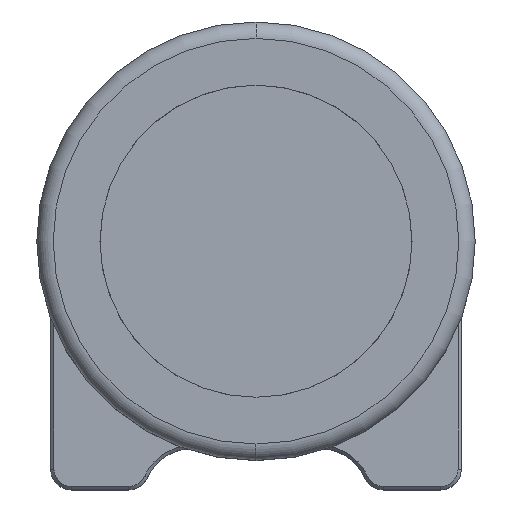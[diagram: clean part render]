
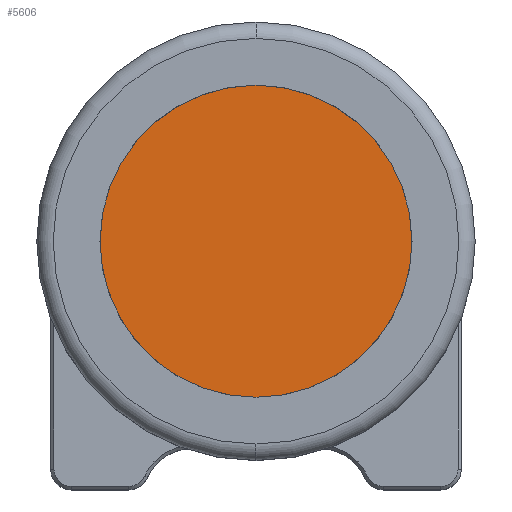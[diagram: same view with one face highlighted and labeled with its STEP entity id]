
A CAD part, top view. The second image highlights one B-rep face of the part: STEP entity #5606.
In plain terms, the highlighted planar face has unit normal (0, 0, 1).
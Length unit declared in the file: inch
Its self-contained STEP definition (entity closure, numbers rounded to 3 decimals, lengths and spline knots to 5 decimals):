
#2726 = DIRECTION ( 'NONE',  ( 0., 0., 1. ) ) ;
#3614 = FACE_OUTER_BOUND ( 'NONE', #6121, .T. ) ;
#3864 = DIRECTION ( 'NONE',  ( 1., 0., 0. ) ) ;
#4472 = VERTEX_POINT ( 'NONE', #21793 ) ;
#5303 = CARTESIAN_POINT ( 'NONE',  ( 0., 0., 0.1875 ) ) ;
#5356 = CARTESIAN_POINT ( 'NONE',  ( 1.1675, 0., 0.1875 ) ) ;
#5606 = ADVANCED_FACE ( 'NONE', ( #3614 ), #17530, .T. ) ;
#6121 = EDGE_LOOP ( 'NONE', ( #12801, #10777 ) ) ;
#6341 = AXIS2_PLACEMENT_3D ( 'NONE', #10939, #12766, #21228 ) ;
#8105 = AXIS2_PLACEMENT_3D ( 'NONE', #5303, #25381, #3864 ) ;
#10777 = ORIENTED_EDGE ( 'NONE', *, *, #25797, .T. ) ;
#10939 = CARTESIAN_POINT ( 'NONE',  ( 0., 0., 0.1875 ) ) ;
#12550 = AXIS2_PLACEMENT_3D ( 'NONE', #14579, #2726, #24623 ) ;
#12766 = DIRECTION ( 'NONE',  ( 0., 0., 1. ) ) ;
#12801 = ORIENTED_EDGE ( 'NONE', *, *, #18379, .T. ) ;
#14579 = CARTESIAN_POINT ( 'NONE',  ( 0., 0., 0.1875 ) ) ;
#17530 = PLANE ( 'NONE',  #8105 ) ;
#17582 = CIRCLE ( 'NONE', #6341, 1.1675 ) ;
#18379 = EDGE_CURVE ( 'NONE', #4472, #24062, #17582, .T. ) ;
#18802 = CIRCLE ( 'NONE', #12550, 1.1675 ) ;
#21228 = DIRECTION ( 'NONE',  ( 1., 0., 0. ) ) ;
#21793 = CARTESIAN_POINT ( 'NONE',  ( -1.1675, 0., 0.1875 ) ) ;
#24062 = VERTEX_POINT ( 'NONE', #5356 ) ;
#24623 = DIRECTION ( 'NONE',  ( 1., 0., 0. ) ) ;
#25381 = DIRECTION ( 'NONE',  ( 0., 0., 1. ) ) ;
#25797 = EDGE_CURVE ( 'NONE', #24062, #4472, #18802, .T. ) ;
